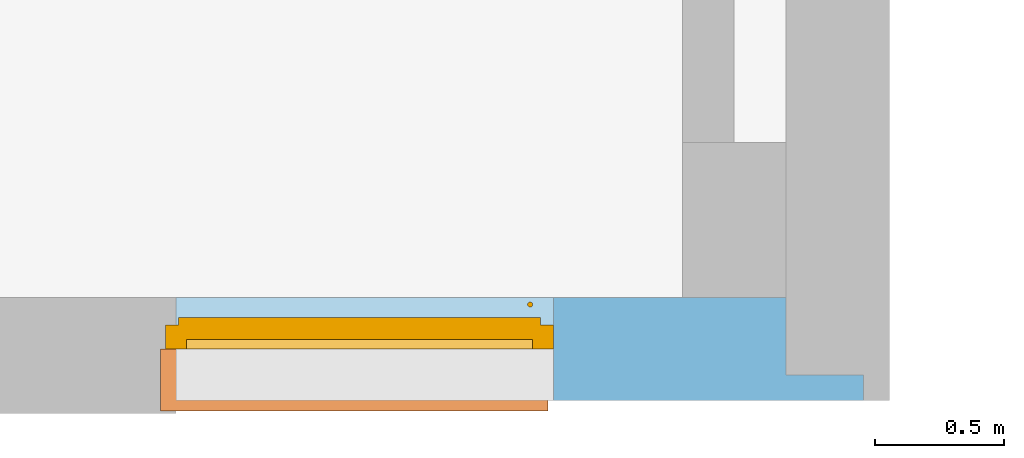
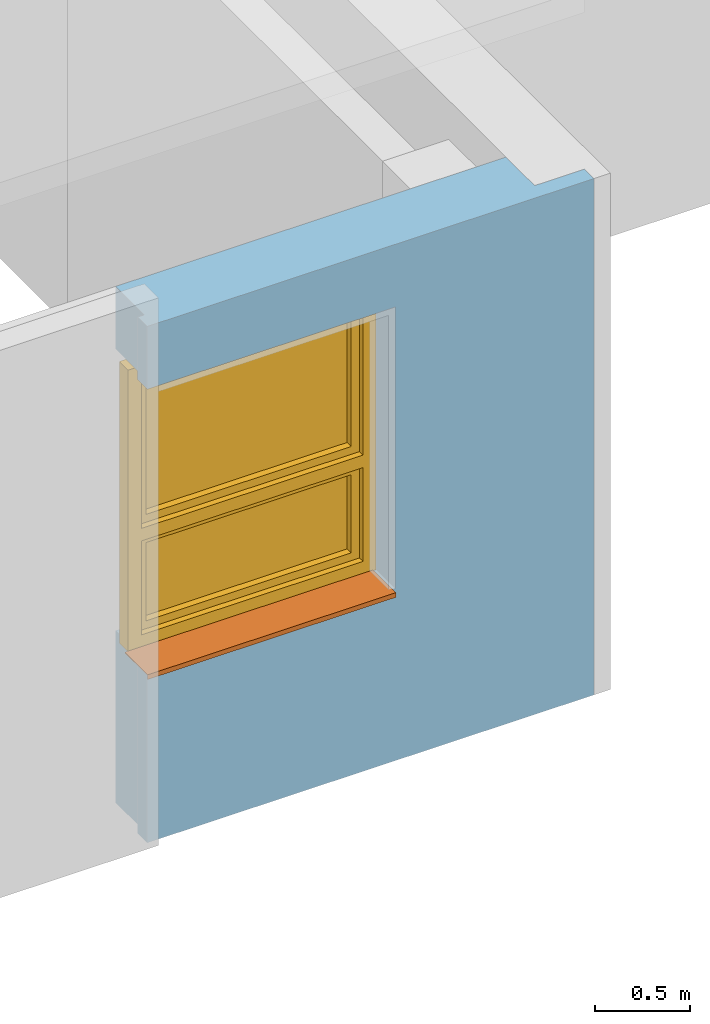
# One storey, part 17 of 27: 1 proxy, 1 window, 1 opening, plus 1 element that does not belong to this part.
"""IFC4 building model written with IfcOpenShell, lengths in metres."""

from ifc_helpers import new_model, entity, si_unit, converted_unit, derived_unit, frame, origin, origin_with_axes, place, context, subcontext, project, spatial, polyline, outline, extrude, clip, bounded_halfspace, closed_shell, open_shell, faceted_brep, surface_model, source, transform, mapped, material, layer, layer_set, layer_usage, element, fill, save


model = new_model("IFC4")

# Units and contexts
model_context = context("Model", 3, precision=1e-05, world=origin())
body_context = subcontext(model_context, "Body", "Model", "MODEL_VIEW")
ifc_project = project(units=[si_unit("LENGTHUNIT", "METRE"), si_unit("AREAUNIT", "SQUARE_METRE"), si_unit("VOLUMEUNIT", "CUBIC_METRE"), si_unit("MASSUNIT", "GRAM", prefix="KILO"), converted_unit("PLANEANGLEUNIT", "DEGREE", entity("IfcPlaneAngleMeasure", 0.0174532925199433), si_unit("PLANEANGLEUNIT", "RADIAN"), dimensions=[0, 0, 0, 0, 0, 0, 0]), derived_unit("THERMALTRANSMITTANCEUNIT", [(si_unit("POWERUNIT", "WATT"), 1), (si_unit("THERMODYNAMICTEMPERATUREUNIT", "KELVIN"), -1), (si_unit("LENGTHUNIT", "METRE"), -2)]), derived_unit("VOLUMETRICFLOWRATEUNIT", [(si_unit("LENGTHUNIT", "METRE"), 3), (converted_unit("TIMEUNIT", "hour", entity("IfcTimeMeasure", 3600.0), si_unit("TIMEUNIT", "SECOND"), dimensions=[0, 0, 1, 0, 0, 0, 0]), -1), (si_unit("LENGTHUNIT", "METRE"), -1)])], contexts=[model_context])

# Site, building, storey
site_placement = place(None, origin())
site = spatial("IfcSite", under=ifc_project, at=site_placement, Name="3. ASŘ", CompositionType="ELEMENT")
building_placement = place(site_placement, origin())
building = spatial("IfcBuilding", under=site, at=building_placement, Name="Pavilon C", CompositionType="ELEMENT")
storey_placement = place(building_placement, frame((0.0, 0.0, 10.5)))
storey = spatial("IfcBuildingStorey", under=building, at=storey_placement, Name="Půdorys 4.NP", CompositionType="ELEMENT", Elevation=10.5)

# Wall, opening, window, proxy
ifc_material_1 = material(Name="EPS")
ifc_layer_1 = layer(ifc_material_1, 0.1)
ifc_material_2 = material(Name="ZELEZOBETONOVÁ KCE")
ifc_layer_2 = layer(ifc_material_2, 0.3)
ifc_layer_set = layer_set([ifc_layer_1, ifc_layer_2])
ifc_layer_usage = layer_usage(ifc_layer_set, "AXIS2", "POSITIVE", -0.1)
wall_placement = place(storey_placement, frame((41.65, -4.6, -0.1)))
wall = element("IfcWall", 1, at=wall_placement, inside=storey, material=ifc_layer_usage, Name="ZELEZOBETONOVÁ KCE", context=body_context, shape_type="Clipping", body=[
    clip(extrude(outline(polyline([(0.0, 0.0), (2.7, 0.0), (2.7, 0.1), (2.4, 0.1), (2.4, 0.4), (0.04, 0.4), (0.04, 0.1), (0.0, 0.1), (0.0, 0.0)])), origin_with_axes(), (0.0, 0.0, 1.0), 3.3), bounded_halfspace(frame((1.576, 0.06, 2.9), z_axis=(0.0, 0.0, -1.0), x_axis=(0.0, -1.0, 0.0)), True, origin_with_axes(), polyline([(0.04, 0.1), (0.04, 0.0), (2.7, 0.0), (2.7, 0.1), (2.4, 0.1), (0.04, 0.1)]))),
])
opening_placement = place(wall_placement, frame((0.0, 0.0, 1.1), z_axis=(0.0, 1.0, 0.0), x_axis=(0.0, 0.0, 1.0)))
opening = element("IfcOpeningElement", 2, at=opening_placement, cuts=wall, Name="Okenní otvor", ObjectType="Opening", context=body_context, shape_type="SweptSolid", body=[
    extrude(outline(polyline([(0.0, 1.5), (1.8, 1.5), (1.8, 0.0), (0.0, 0.0), (0.0, 1.5)])), origin_with_axes(), (0.0, 0.0, 1.0), 0.1),
    extrude(outline(polyline([(0.0, 1.5), (1.8, 1.5), (1.8, 0.0), (0.0, 0.0), (0.0, 1.5)])), frame((0.0, 0.0, 0.1), z_axis=(0.0, 0.0, 1.0), x_axis=(1.0, 0.0, 0.0)), (0.0, 0.0, 1.0), 0.3),
])
shared_shape_1 = source(origin_with_axes(), body_context, "Body", "SurfaceModel", [
    surface_model("IfcShellBasedSurfaceModel", [(0.0, 0.182, 1.8), (0.0, 0.182, -5.63337527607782e-18), (0.08, 0.182, -5.63337527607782e-18), (0.08, 0.182, 1.8), (0.0, 0.0899999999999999, 5.63337527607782e-18), (0.0, 0.0900000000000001, 1.8), (0.08, 0.0900000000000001, 1.8), (0.08, 0.0899999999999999, 5.63337527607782e-18)], [closed_shell([[[0, 1, 2, 3]], [[4, 5, 6, 7]], [[1, 0, 5, 4]], [[2, 1, 4, 7]], [[3, 2, 7, 6]], [[0, 3, 6, 5]]], orient=[[False], [False], [False], [False], [False], [False]])]),
    surface_model("IfcShellBasedSurfaceModel", [(1.42, 0.182, 1.8), (1.42, 0.182, -5.63337527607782e-18), (1.5, 0.182, -5.63337527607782e-18), (1.5, 0.182, 1.8), (1.42, 0.0899999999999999, 5.63337527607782e-18), (1.42, 0.0900000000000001, 1.8), (1.5, 0.0900000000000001, 1.8), (1.5, 0.0899999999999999, 5.63337527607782e-18)], [closed_shell([[[0, 1, 2, 3]], [[4, 5, 6, 7]], [[1, 0, 5, 4]], [[2, 1, 4, 7]], [[3, 2, 7, 6]], [[0, 3, 6, 5]]], orient=[[False], [False], [False], [False], [False], [False]])]),
    surface_model("IfcShellBasedSurfaceModel", [(0.08, 0.182, 0.08), (0.08, 0.182, -5.63337527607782e-18), (1.42, 0.182, -5.63337527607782e-18), (1.42, 0.182, 0.08), (0.08, 0.0899999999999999, 5.63337527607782e-18), (0.08, 0.0899999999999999, 0.08), (1.42, 0.0899999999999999, 0.08), (1.42, 0.0899999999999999, 5.63337527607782e-18)], [closed_shell([[[0, 1, 2, 3]], [[4, 5, 6, 7]], [[1, 0, 5, 4]], [[2, 1, 4, 7]], [[3, 2, 7, 6]], [[0, 3, 6, 5]]], orient=[[False], [False], [False], [False], [False], [False]])]),
    surface_model("IfcShellBasedSurfaceModel", [(0.08, 0.182, 1.8), (0.08, 0.182, 1.72), (1.42, 0.182, 1.72), (1.42, 0.182, 1.8), (0.08, 0.0900000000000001, 1.72), (0.08, 0.0900000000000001, 1.8), (1.42, 0.0900000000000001, 1.8), (1.42, 0.0900000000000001, 1.72)], [closed_shell([[[0, 1, 2, 3]], [[4, 5, 6, 7]], [[1, 0, 5, 4]], [[2, 1, 4, 7]], [[3, 2, 7, 6]], [[0, 3, 6, 5]]], orient=[[False], [False], [False], [False], [False], [False]])]),
    surface_model("IfcShellBasedSurfaceModel", [(0.08, 0.182, 0.76), (0.08, 0.182, 0.68), (1.42, 0.182, 0.68), (1.42, 0.182, 0.76), (0.08, 0.0899999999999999, 0.68), (0.08, 0.0899999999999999, 0.76), (1.42, 0.0899999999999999, 0.76), (1.42, 0.0899999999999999, 0.68)], [closed_shell([[[0, 1, 2, 3]], [[4, 5, 6, 7]], [[1, 0, 5, 4]], [[2, 1, 4, 7]], [[3, 2, 7, 6]], [[0, 3, 6, 5]]], orient=[[False], [False], [False], [False], [False], [False]])]),
    surface_model("IfcShellBasedSurfaceModel", [(0.05, 0.145, 0.71), (0.05, 0.145, 0.05), (0.13, 0.145, 0.05), (0.13, 0.145, 0.71), (0.05, 0.0599999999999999, 0.05), (0.05, 0.0599999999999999, 0.71), (0.13, 0.0599999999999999, 0.71), (0.13, 0.0599999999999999, 0.05)], [closed_shell([[[0, 1, 2, 3]], [[4, 5, 6, 7]], [[1, 0, 5, 4]], [[2, 1, 4, 7]], [[3, 2, 7, 6]], [[0, 3, 6, 5]]], orient=[[False], [False], [False], [False], [False], [False]])]),
    surface_model("IfcShellBasedSurfaceModel", [(1.37, 0.145, 0.71), (1.37, 0.145, 0.05), (1.45, 0.145, 0.05), (1.45, 0.145, 0.71), (1.37, 0.0599999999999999, 0.05), (1.37, 0.0599999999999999, 0.71), (1.45, 0.0599999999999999, 0.71), (1.45, 0.0599999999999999, 0.05)], [closed_shell([[[0, 1, 2, 3]], [[4, 5, 6, 7]], [[1, 0, 5, 4]], [[2, 1, 4, 7]], [[3, 2, 7, 6]], [[0, 3, 6, 5]]], orient=[[False], [False], [False], [False], [False], [False]])]),
    surface_model("IfcShellBasedSurfaceModel", [(0.13, 0.145, 0.13), (0.13, 0.145, 0.05), (1.37, 0.145, 0.05), (1.37, 0.145, 0.13), (0.13, 0.0599999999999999, 0.05), (0.13, 0.0599999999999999, 0.13), (1.37, 0.0599999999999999, 0.13), (1.37, 0.0599999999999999, 0.05)], [closed_shell([[[0, 1, 2, 3]], [[4, 5, 6, 7]], [[1, 0, 5, 4]], [[2, 1, 4, 7]], [[3, 2, 7, 6]], [[0, 3, 6, 5]]], orient=[[False], [False], [False], [False], [False], [False]])]),
    surface_model("IfcShellBasedSurfaceModel", [(0.13, 0.145, 0.71), (0.13, 0.145, 0.63), (1.37, 0.145, 0.63), (1.37, 0.145, 0.71), (0.13, 0.0599999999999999, 0.63), (0.13, 0.0599999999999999, 0.71), (1.37, 0.0599999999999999, 0.71), (1.37, 0.0599999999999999, 0.63)], [closed_shell([[[0, 1, 2, 3]], [[4, 5, 6, 7]], [[1, 0, 5, 4]], [[2, 1, 4, 7]], [[3, 2, 7, 6]], [[0, 3, 6, 5]]], orient=[[False], [False], [False], [False], [False], [False]])]),
    surface_model("IfcShellBasedSurfaceModel", [(0.05, 0.145, 1.75), (0.05, 0.145, 0.73), (0.13, 0.145, 0.73), (0.13, 0.145, 1.75), (0.05, 0.0599999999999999, 0.73), (0.05, 0.0600000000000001, 1.75), (0.13, 0.0600000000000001, 1.75), (0.13, 0.0599999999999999, 0.73)], [closed_shell([[[0, 1, 2, 3]], [[4, 5, 6, 7]], [[1, 0, 5, 4]], [[2, 1, 4, 7]], [[3, 2, 7, 6]], [[0, 3, 6, 5]]], orient=[[False], [False], [False], [False], [False], [False]])]),
    surface_model("IfcShellBasedSurfaceModel", [(1.37, 0.145, 1.75), (1.37, 0.145, 0.73), (1.45, 0.145, 0.73), (1.45, 0.145, 1.75), (1.37, 0.0599999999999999, 0.73), (1.37, 0.0600000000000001, 1.75), (1.45, 0.0600000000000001, 1.75), (1.45, 0.0599999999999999, 0.73)], [closed_shell([[[0, 1, 2, 3]], [[4, 5, 6, 7]], [[1, 0, 5, 4]], [[2, 1, 4, 7]], [[3, 2, 7, 6]], [[0, 3, 6, 5]]], orient=[[False], [False], [False], [False], [False], [False]])]),
    surface_model("IfcShellBasedSurfaceModel", [(0.13, 0.145, 0.81), (0.13, 0.145, 0.73), (1.37, 0.145, 0.73), (1.37, 0.145, 0.81), (0.13, 0.0599999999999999, 0.73), (0.13, 0.06, 0.81), (1.37, 0.06, 0.81), (1.37, 0.0599999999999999, 0.73)], [closed_shell([[[0, 1, 2, 3]], [[4, 5, 6, 7]], [[1, 0, 5, 4]], [[2, 1, 4, 7]], [[3, 2, 7, 6]], [[0, 3, 6, 5]]], orient=[[False], [False], [False], [False], [False], [False]])]),
    surface_model("IfcShellBasedSurfaceModel", [(0.13, 0.145, 1.75), (0.13, 0.145, 1.67), (1.37, 0.145, 1.67), (1.37, 0.145, 1.75), (0.13, 0.0600000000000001, 1.67), (0.13, 0.0600000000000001, 1.75), (1.37, 0.0600000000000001, 1.75), (1.37, 0.0600000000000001, 1.67)], [closed_shell([[[0, 1, 2, 3]], [[4, 5, 6, 7]], [[1, 0, 5, 4]], [[2, 1, 4, 7]], [[3, 2, 7, 6]], [[0, 3, 6, 5]]], orient=[[False], [False], [False], [False], [False], [False]])]),
    surface_model("IfcShellBasedSurfaceModel", [(0.0775, 0.06, 1.26), (0.0775, 0.06, 1.22), (0.1025, 0.06, 1.22), (0.1025, 0.06, 1.26), (0.0775, 0.05, 1.22), (0.0775, 0.05, 1.26), (0.1025, 0.05, 1.26), (0.1025, 0.05, 1.22)], [closed_shell([[[0, 1, 2, 3]], [[4, 5, 6, 7]], [[1, 0, 5, 4]], [[2, 1, 4, 7]], [[3, 2, 7, 6]], [[0, 3, 6, 5]]], orient=[[False], [False], [False], [False], [False], [False]])]),
    surface_model("IfcShellBasedSurfaceModel", [(0.1, 0.05, 1.24), (0.0986602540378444, 0.05, 1.245), (0.095, 0.05, 1.24866025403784), (0.09, 0.05, 1.25), (0.085, 0.05, 1.24866025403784), (0.0813397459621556, 0.05, 1.245), (0.08, 0.05, 1.24), (0.0813397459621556, 0.05, 1.235), (0.085, 0.05, 1.23133974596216), (0.09, 0.05, 1.23), (0.095, 0.05, 1.23133974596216), (0.0986602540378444, 0.05, 1.235), (0.1, 0.01, 1.24), (0.0986602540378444, 0.00500000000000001, 1.245), (0.095, 0.00133974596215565, 1.24866025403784), (0.09, 2.8421709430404e-17, 1.25), (0.085, 0.00133974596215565, 1.24866025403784), (0.0813397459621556, 0.00500000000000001, 1.245), (0.08, 0.01, 1.24), (0.0813397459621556, 0.015, 1.235), (0.085, 0.0186602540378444, 1.23133974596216), (0.09, 0.02, 1.23), (0.095, 0.0186602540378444, 1.23133974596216), (0.0986602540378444, 0.015, 1.235), (0.1, 0.01, 1.125), (0.0986602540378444, 0.005, 1.125), (0.095, 0.00133974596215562, 1.125), (0.09, 0.0, 1.125), (0.085, 0.00133974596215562, 1.125), (0.0813397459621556, 0.005, 1.125), (0.08, 0.01, 1.125), (0.0813397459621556, 0.015, 1.125), (0.085, 0.0186602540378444, 1.125), (0.09, 0.02, 1.125), (0.095, 0.0186602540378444, 1.125), (0.0986602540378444, 0.015, 1.125)], [open_shell([[[0, 1, 2, 3, 4, 5, 6, 7, 8, 9, 10, 11]], [[0, 12, 13, 1]], [[1, 13, 14, 2]], [[2, 14, 15, 3]], [[3, 15, 16, 4]], [[4, 16, 17, 5]], [[5, 17, 18, 6]], [[6, 18, 19, 7]], [[7, 19, 20, 8]], [[8, 20, 21, 9]], [[9, 21, 22, 10]], [[10, 22, 23, 11]], [[11, 23, 12, 0]], [[12, 24, 25, 13]], [[13, 25, 26, 14]], [[14, 26, 27, 15]], [[15, 27, 28, 16]], [[16, 28, 29, 17]], [[17, 29, 30, 18]], [[18, 30, 31, 19]], [[19, 31, 32, 20]], [[20, 32, 33, 21]], [[21, 33, 34, 22]], [[22, 34, 35, 23]], [[23, 35, 24, 12]]], orient=[[False], [False], [False], [False], [False], [False], [False], [False], [False], [False], [False], [False], [False], [False], [False], [False], [False], [False], [False], [False], [False], [False], [False], [False], [False]])]),
    surface_model("IfcShellBasedSurfaceModel", [(0.13, 0.1025, 0.13), (1.37, 0.1025, 0.13), (1.37, 0.1025, 0.63), (0.13, 0.1025, 0.63)], [open_shell([[[0, 1, 2, 3]]], orient=[[False]])]),
    surface_model("IfcShellBasedSurfaceModel", [(0.13, 0.1025, 0.81), (1.37, 0.1025, 0.81), (1.37, 0.1025, 1.67), (0.13, 0.1025, 1.67)], [open_shell([[[0, 1, 2, 3]]], orient=[[False]])]),
])
window_placement = place(opening_placement, frame((0.0, 1.5, 0.382), z_axis=(1.0, 0.0, 0.0), x_axis=(0.0, -1.0, 1.22464679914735e-16)))
window = element("IfcWindow", 3, at=window_placement, inside=storey, Name="O06", OverallHeight=1.8, OverallWidth=1.5, PartitioningType="USERDEFINED", PredefinedType="WINDOW", context=body_context, shape_type="MappedRepresentation", body=[
    mapped(shared_shape_1, transform((0.0, 0.0, 0.0), x_axis=(1.0, 0.0, 0.0), y_axis=(0.0, 1.0, 0.0), z_axis=(0.0, 0.0, 1.0), scale=1.0)),
])
fill(opening, window)
ifc_material_3 = material(Name="PLECH")
shared_shape_2 = source(origin_with_axes(), body_context, "Body", "Brep", [
    faceted_brep([(0.0, 0.0, 0.0), (0.0, 0.2, 0.0), (0.0, 0.2, 0.005), (0.0, 0.0, 0.005), (1.46, 0.0, 0.0), (1.46, 0.0, 0.005), (1.46, 0.2, 0.005), (1.46, 0.2, 0.0), (-0.02, 0.0, 0.0), (-0.02, -0.035, 0.0), (1.48, -0.035, 0.0), (1.48, 0.0, 0.0), (1.48, 0.0, 0.005), (1.48, -0.04, 0.005), (-0.02, -0.04, 0.005), (-0.02, 0.0, 0.005), (-0.02, -0.04, -0.025), (-0.02, -0.035, -0.025), (1.48, -0.035, -0.025), (1.48, -0.04, -0.025)], [[[0, 1, 2, 3]], [[4, 5, 6, 7]], [[1, 0, 8, 9, 10, 11, 4, 7]], [[2, 1, 7, 6]], [[3, 2, 6, 5, 12, 13, 14, 15]], [[8, 15, 14, 16, 17, 9]], [[11, 10, 18, 19, 13, 12]], [[15, 8, 0, 3]], [[5, 4, 11, 12]], [[16, 14, 13, 19]], [[17, 16, 19, 18]], [[9, 17, 18, 10]]], orient=[[False], [False], [False], [False], [False], [False], [False], [False], [False], [False], [False], [False]]),
    faceted_brep([(-0.02, 0.0, 0.0), (-0.02, 0.2, 0.0), (-0.02, 0.2, 0.005), (-0.02, 0.0, 0.005), (0.0, 0.0, 0.0), (0.0, 0.0, 0.005), (0.0, 0.2, 0.005), (0.0, 0.2, 0.0)], [[[0, 1, 2, 3]], [[4, 5, 6, 7]], [[1, 0, 4, 7]], [[2, 1, 7, 6]], [[3, 2, 6, 5]], [[0, 3, 5, 4]]], orient=[[False], [False], [False], [False], [False], [False]]),
    faceted_brep([(1.46, 0.0, 0.0), (1.46, 0.2, 0.0), (1.46, 0.2, 0.005), (1.46, 0.0, 0.005), (1.48, 0.0, 0.0), (1.48, 0.0, 0.005), (1.48, 0.2, 0.005), (1.48, 0.2, 0.0)], [[[0, 1, 2, 3]], [[4, 5, 6, 7]], [[1, 0, 4, 7]], [[2, 1, 7, 6]], [[3, 2, 6, 5]], [[0, 3, 5, 4]]], orient=[[False], [False], [False], [False], [False], [False]]),
])
proxy_placement = place(opening_placement, frame((0.0, 0.0, 0.0), z_axis=(1.0, 0.0, 0.0), x_axis=(0.0, 1.0, 0.0)))
proxy = element("IfcBuildingElementProxy", 4, at=proxy_placement, inside=storey, material=ifc_material_3, Name="Parapet vnější", context=body_context, shape_type="MappedRepresentation", body=[
    mapped(shared_shape_2, transform((0.0, 0.0, 0.0), x_axis=(1.0, 0.0, 0.0), y_axis=(0.0, 1.0, 0.0), z_axis=(0.0, 0.0, 1.0), scale=1.0)),
])
fill(opening, proxy)

save(model, "model.ifc")
